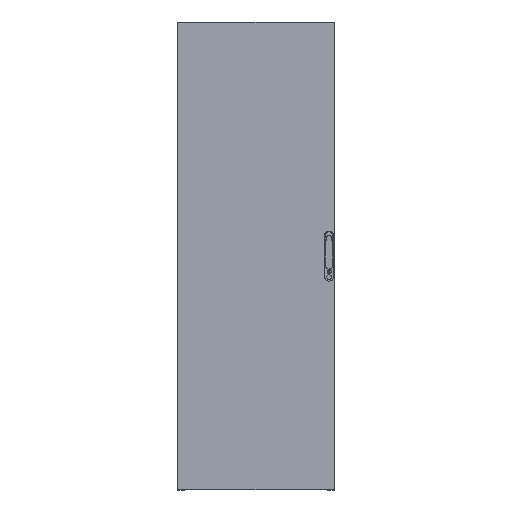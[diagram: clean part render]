
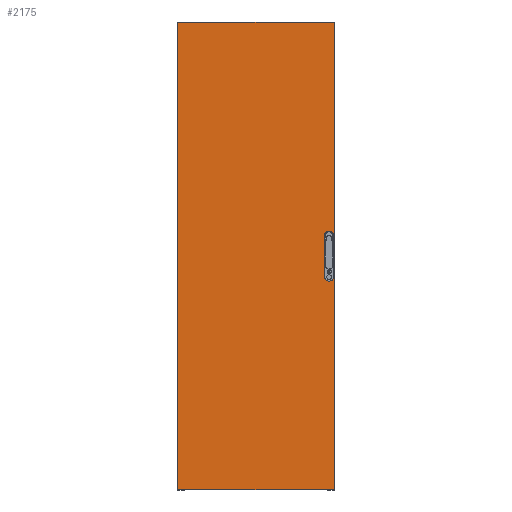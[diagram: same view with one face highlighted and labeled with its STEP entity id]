
A CAD part, top view. The second image highlights one B-rep face of the part: STEP entity #2175.
In plain terms, the highlighted planar face has unit normal (0, 0, 1).
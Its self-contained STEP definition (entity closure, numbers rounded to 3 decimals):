
#970=DIRECTION('',(1.,0.,0.));
#971=VECTOR('',#970,644.);
#972=CARTESIAN_POINT('',(0.,0.,37.2));
#973=LINE('',#972,#971);
#977=DIRECTION('',(0.,-1.,0.));
#978=VECTOR('',#977,1925.);
#979=CARTESIAN_POINT('',(0.,1925.,37.2));
#980=LINE('',#979,#978);
#984=DIRECTION('',(-1.,0.,0.));
#985=VECTOR('',#984,644.);
#986=CARTESIAN_POINT('',(644.,1925.,37.2));
#987=LINE('',#986,#985);
#991=DIRECTION('',(0.,1.,0.));
#992=VECTOR('',#991,1925.);
#993=CARTESIAN_POINT('',(644.,0.,37.2));
#994=LINE('',#993,#992);
#998=DIRECTION('',(-0.134,0.991,0.));
#999=VECTOR('',#998,39.104);
#1000=CARTESIAN_POINT('',(636.5,1019.5,37.2));
#1001=LINE('',#1000,#999);
#1005=DIRECTION('',(-1.,0.,0.));
#1006=VECTOR('',#1005,16.5);
#1007=CARTESIAN_POINT('',(631.25,1058.25,37.2));
#1008=LINE('',#1007,#1006);
#1012=DIRECTION('',(-0.134,-0.991,0.));
#1013=VECTOR('',#1012,39.104);
#1014=CARTESIAN_POINT('',(614.75,1058.25,37.2));
#1015=LINE('',#1014,#1013);
#1019=DIRECTION('',(0.,-1.,0.));
#1020=VECTOR('',#1019,114.);
#1021=CARTESIAN_POINT('',(609.5,1019.5,37.2));
#1022=LINE('',#1021,#1020);
#1026=DIRECTION('',(0.134,-0.991,0.));
#1027=VECTOR('',#1026,39.104);
#1028=CARTESIAN_POINT('',(609.5,905.5,37.2));
#1029=LINE('',#1028,#1027);
#1033=DIRECTION('',(1.,0.,0.));
#1034=VECTOR('',#1033,16.5);
#1035=CARTESIAN_POINT('',(614.75,866.75,37.2));
#1036=LINE('',#1035,#1034);
#1040=DIRECTION('',(0.134,0.991,0.));
#1041=VECTOR('',#1040,39.104);
#1042=CARTESIAN_POINT('',(631.25,866.75,37.2));
#1043=LINE('',#1042,#1041);
#1047=DIRECTION('',(0.,1.,0.));
#1048=VECTOR('',#1047,114.);
#1049=CARTESIAN_POINT('',(636.5,905.5,37.2));
#1050=LINE('',#1049,#1048);
#1261=CARTESIAN_POINT('',(0.,0.,37.2));
#1262=CARTESIAN_POINT('',(644.,0.,37.2));
#1263=VERTEX_POINT('',#1261);
#1264=VERTEX_POINT('',#1262);
#1265=CARTESIAN_POINT('',(644.,1925.,37.2));
#1266=VERTEX_POINT('',#1265);
#1267=CARTESIAN_POINT('',(0.,1925.,37.2));
#1268=VERTEX_POINT('',#1267);
#1289=CARTESIAN_POINT('',(636.5,1019.5,37.2));
#1290=CARTESIAN_POINT('',(631.25,1058.25,37.2));
#1291=VERTEX_POINT('',#1289);
#1292=VERTEX_POINT('',#1290);
#1293=CARTESIAN_POINT('',(614.75,1058.25,37.2));
#1294=VERTEX_POINT('',#1293);
#1295=CARTESIAN_POINT('',(609.5,1019.5,37.2));
#1296=VERTEX_POINT('',#1295);
#1297=CARTESIAN_POINT('',(609.5,905.5,37.2));
#1298=VERTEX_POINT('',#1297);
#1299=CARTESIAN_POINT('',(614.75,866.75,37.2));
#1300=VERTEX_POINT('',#1299);
#1301=CARTESIAN_POINT('',(631.25,866.75,37.2));
#1302=VERTEX_POINT('',#1301);
#1303=CARTESIAN_POINT('',(636.5,905.5,37.2));
#1304=VERTEX_POINT('',#1303);
#2144=CARTESIAN_POINT('',(0.,0.,37.2));
#2145=DIRECTION('',(0.,0.,1.));
#2146=DIRECTION('',(1.,0.,0.));
#2147=AXIS2_PLACEMENT_3D('',#2144,#2145,#2146);
#2148=PLANE('',#2147);
#2149=ORIENTED_EDGE('',*,*,#2015,.F.);
#2151=ORIENTED_EDGE('',*,*,#2150,.F.);
#2153=ORIENTED_EDGE('',*,*,#2152,.F.);
#2155=ORIENTED_EDGE('',*,*,#2154,.F.);
#2156=EDGE_LOOP('',(#2149,#2151,#2153,#2155));
#2157=FACE_OUTER_BOUND('',#2156,.F.);
#2158=ORIENTED_EDGE('',*,*,#2134,.T.);
#2160=ORIENTED_EDGE('',*,*,#2159,.T.);
#2162=ORIENTED_EDGE('',*,*,#2161,.T.);
#2164=ORIENTED_EDGE('',*,*,#2163,.T.);
#2166=ORIENTED_EDGE('',*,*,#2165,.T.);
#2168=ORIENTED_EDGE('',*,*,#2167,.T.);
#2170=ORIENTED_EDGE('',*,*,#2169,.T.);
#2172=ORIENTED_EDGE('',*,*,#2171,.T.);
#2173=EDGE_LOOP('',(#2158,#2160,#2162,#2164,#2166,#2168,#2170,#2172));
#2174=FACE_BOUND('',#2173,.F.);
#2015=EDGE_CURVE('',#1263,#1264,#973,.T.);
#2134=EDGE_CURVE('',#1291,#1292,#1001,.T.);
#2150=EDGE_CURVE('',#1268,#1263,#980,.T.);
#2152=EDGE_CURVE('',#1266,#1268,#987,.T.);
#2154=EDGE_CURVE('',#1264,#1266,#994,.T.);
#2159=EDGE_CURVE('',#1292,#1294,#1008,.T.);
#2161=EDGE_CURVE('',#1294,#1296,#1015,.T.);
#2163=EDGE_CURVE('',#1296,#1298,#1022,.T.);
#2165=EDGE_CURVE('',#1298,#1300,#1029,.T.);
#2167=EDGE_CURVE('',#1300,#1302,#1036,.T.);
#2169=EDGE_CURVE('',#1302,#1304,#1043,.T.);
#2171=EDGE_CURVE('',#1304,#1291,#1050,.T.);
#2175=ADVANCED_FACE('',(#2157,#2174),#2148,.T.);
